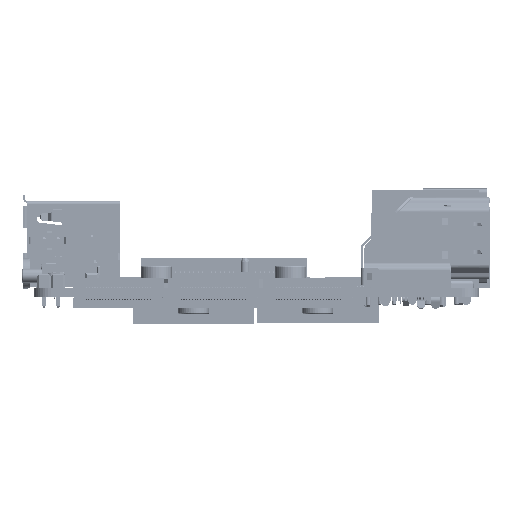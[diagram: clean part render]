
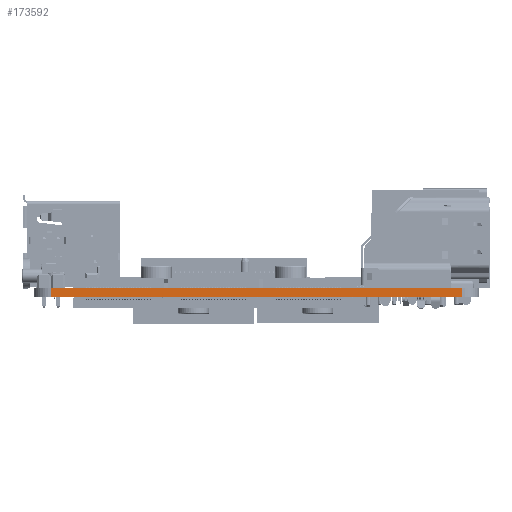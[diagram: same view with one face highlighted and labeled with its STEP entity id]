
A CAD part, left-side view. The second image highlights one B-rep face of the part: STEP entity #173592.
In plain terms, the highlighted planar face has unit normal (-1, 0, 0).
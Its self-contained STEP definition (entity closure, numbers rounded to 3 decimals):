
#18480 = CARTESIAN_POINT ( 'NONE',  ( 0., 77., 0. ) ) ;
#34755 = EDGE_LOOP ( 'NONE', ( #109575, #215141, #476163, #84883 ) ) ;
#38742 = CARTESIAN_POINT ( 'NONE',  ( 0., 3., -1.6 ) ) ;
#52771 = LINE ( 'NONE', #18480, #470267 ) ;
#68345 = EDGE_CURVE ( 'NONE', #197082, #373175, #371961, .T. ) ;
#84883 = ORIENTED_EDGE ( 'NONE', *, *, #152633, .T. ) ;
#102616 = DIRECTION ( 'NONE',  ( 0., 0., 1. ) ) ;
#109575 = ORIENTED_EDGE ( 'NONE', *, *, #447188, .F. ) ;
#123694 = PLANE ( 'NONE',  #168131 ) ;
#147304 = LINE ( 'NONE', #220848, #303387 ) ;
#152633 = EDGE_CURVE ( 'NONE', #176699, #255460, #295986, .T. ) ;
#168131 = AXIS2_PLACEMENT_3D ( 'NONE', #383330, #275562, #199602 ) ;
#173592 = ADVANCED_FACE ( 'NONE', ( #312278 ), #123694, .T. ) ;
#176699 = VERTEX_POINT ( 'NONE', #248653 ) ;
#197082 = VERTEX_POINT ( 'NONE', #294979 ) ;
#197717 = VECTOR ( 'NONE', #254602, 1000. ) ;
#199602 = DIRECTION ( 'NONE',  ( 0., 0., 1. ) ) ;
#215141 = ORIENTED_EDGE ( 'NONE', *, *, #68345, .F. ) ;
#220848 = CARTESIAN_POINT ( 'NONE',  ( 0., 77., -1.6 ) ) ;
#248653 = CARTESIAN_POINT ( 'NONE',  ( 0., 3., -1.6 ) ) ;
#254602 = DIRECTION ( 'NONE',  ( 0., 0., 1. ) ) ;
#255460 = VERTEX_POINT ( 'NONE', #286104 ) ;
#275562 = DIRECTION ( 'NONE',  ( -1., 0., 0. ) ) ;
#286104 = CARTESIAN_POINT ( 'NONE',  ( 0., 3., 0. ) ) ;
#291339 = CARTESIAN_POINT ( 'NONE',  ( 0., 77., -1.6 ) ) ;
#294979 = CARTESIAN_POINT ( 'NONE',  ( 0., 77., -1.6 ) ) ;
#295986 = LINE ( 'NONE', #38742, #430045 ) ;
#296738 = DIRECTION ( 'NONE',  ( 0., -1., 0. ) ) ;
#303387 = VECTOR ( 'NONE', #296738, 1000. ) ;
#312278 = FACE_OUTER_BOUND ( 'NONE', #34755, .T. ) ;
#345102 = EDGE_CURVE ( 'NONE', #197082, #176699, #147304, .T. ) ;
#371961 = LINE ( 'NONE', #291339, #197717 ) ;
#373175 = VERTEX_POINT ( 'NONE', #408908 ) ;
#383330 = CARTESIAN_POINT ( 'NONE',  ( 0., 77., -1.6 ) ) ;
#388278 = DIRECTION ( 'NONE',  ( 0., -1., 0. ) ) ;
#408908 = CARTESIAN_POINT ( 'NONE',  ( 0., 77., 0. ) ) ;
#430045 = VECTOR ( 'NONE', #102616, 1000. ) ;
#447188 = EDGE_CURVE ( 'NONE', #373175, #255460, #52771, .T. ) ;
#470267 = VECTOR ( 'NONE', #388278, 1000. ) ;
#476163 = ORIENTED_EDGE ( 'NONE', *, *, #345102, .T. ) ;
